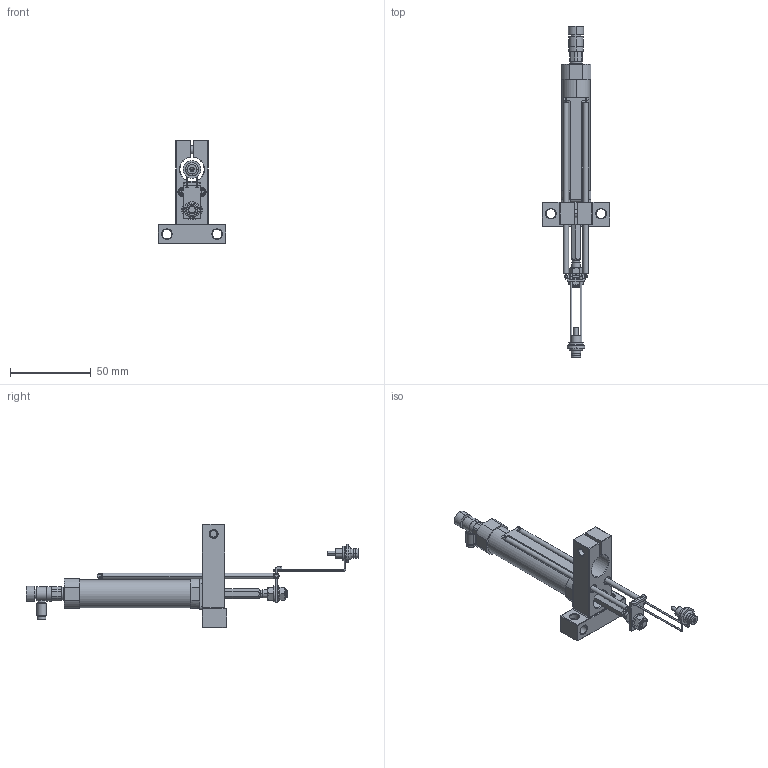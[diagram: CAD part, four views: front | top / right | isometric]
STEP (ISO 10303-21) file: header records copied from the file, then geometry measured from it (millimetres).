
FILE_DESCRIPTION(('Creo Elements/Direct Modeling STEP Export'),'2;1');
FILE_NAME('Air_Lifting_Unit(25mm).stp','2020-10-26T14:31:32',(''),(''),'Creo Elements/Direct Modeling STEP processor for AP214 (Solid Model)','Creo Elements/Direct Modeling 18.1I 13-Aug-2016 (C) Parametric Technology GmbH','');
FILE_SCHEMA(('AUTOMOTIVE_DESIGN { 1 0 10303 214 1 1 1 1 }'));
Length unit declared in the file: millimetre
Products named in the file (13): AIR_LIFTING_UNIT_HOLDER_-76400.PRT; AIR_LIFTING_UNIT_HOLDER_-76730.ASM; AIR_LIFTING_UNIT_MOVING_-139170.PRT; AIR_LIFTING_UNIT_MOVING_-139500.ASM; HOLDER-151830.PRT; HOLDER-152180.ASM; SPRING_A-164870.PRT; SPRING_A-165200.ASM; SPRING_B-177890.PRT; SPRING_B-178220.ASM; AS1211F-M5E-02A.prt; SUPIKON; AIR_LIFTING_UNIT_25MM_.stp
Assembly tree (12 placements, depth 3):
  AIR_LIFTING_UNIT_25MM_.stp
    SUPIKON
      AS1211F-M5E-02A.prt
    SPRING_B-178220.ASM
      SPRING_B-177890.PRT
    SPRING_A-165200.ASM
      SPRING_A-164870.PRT
    HOLDER-152180.ASM
      HOLDER-151830.PRT
    AIR_LIFTING_UNIT_MOVING_-139500.ASM
      AIR_LIFTING_UNIT_MOVING_-139170.PRT
    AIR_LIFTING_UNIT_HOLDER_-76730.ASM
      AIR_LIFTING_UNIT_HOLDER_-76400.PRT
Bounding box: 42 x 205.3 x 64 mm (x, y, z)
Volume: 38342.2 mm3; surface area: 23790.3 mm2
Topology: 6 solids, 7 shells, 448 faces, 1091 edges, 688 vertices
Faces by surface type: plane 177, cylinder 173, cone 66, torus 24, bspline 8
Entity records: 22486 total; most frequent: CARTESIAN_POINT 10382, ORIENTED_EDGE 2178, DIRECTION 2001, EDGE_CURVE 1089, AXIS2_PLACEMENT_3D 735, VERTEX_POINT 688, VECTOR 531, LINE 531
